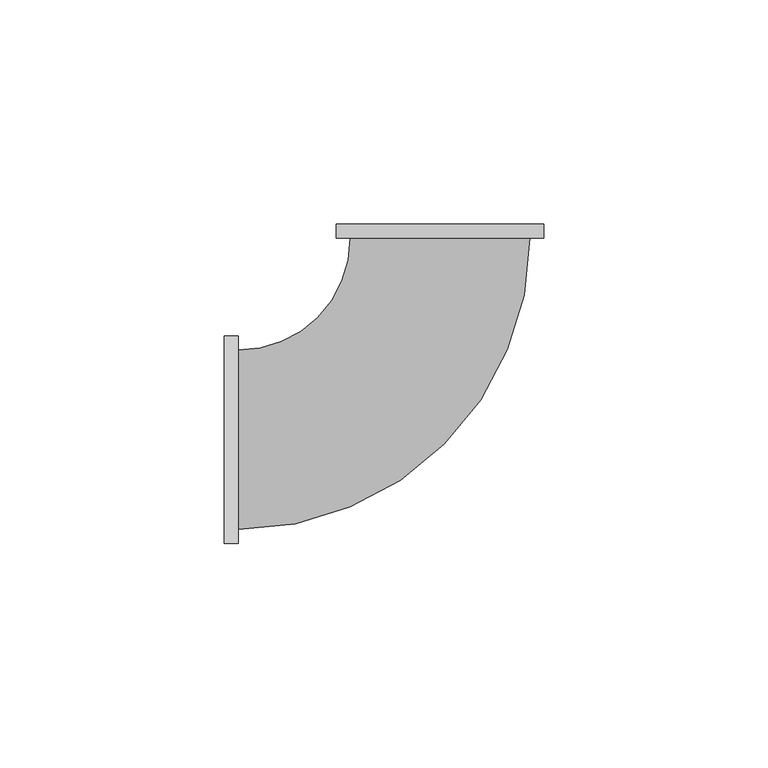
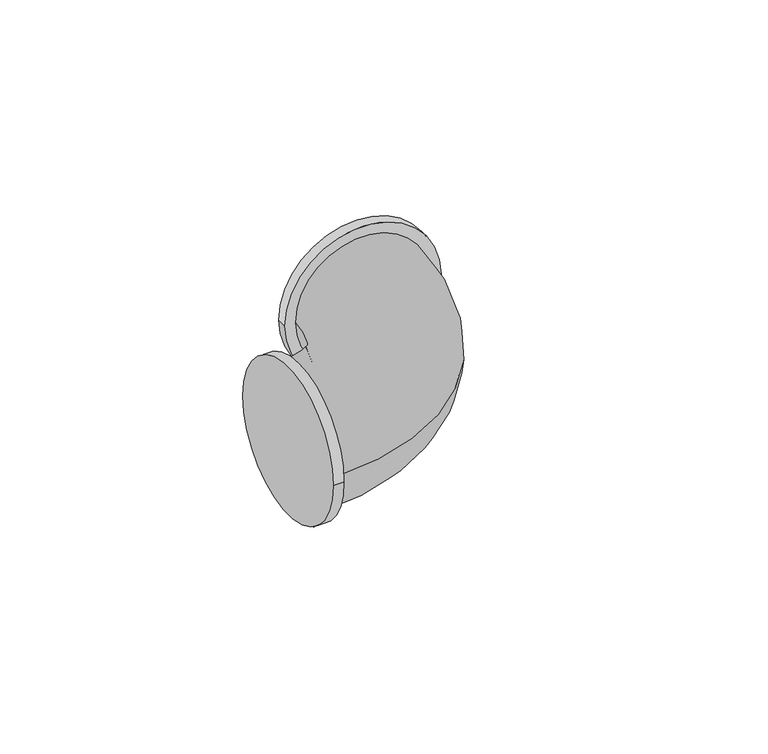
"""IFC4 building model written with IfcOpenShell, lengths in millimetres: pipe fitting geometry, ADSK_ДетальЧугуннаяРезьбовая_Угольник_ГОСТ8946-75 : Неоцинкованные."""

from ifc_helpers import new_model, si_unit, point, frame, origin, place, context, project, spatial, circle_curve, ellipse_curve, trimmed, source, transform, mapped, element, save
from ifc_brep_helpers import plane_surface, cylinder_surface, revolved_surface, advanced_brep


def pipe_fitting_7f21b533(model_context):
    return source(origin(), model_context, "Body", "AdvancedBrep", [
        advanced_brep(
        [(23.2, 48.2, 0.0), (-23.2, 48.2, 0.0), (-45.0, -20.0, 0.0), (20.0, 45.0, 0.0), (-20.0, 45.0, 0.0), (-45.0, 20.0, 0.0), (-48.2, 23.2, 0.0), (-48.2, -23.2, 0.0), (-45.0, 23.2, 0.0), (-45.0, -23.2, 0.0), (23.2, 45.0, 0.0), (-23.2, 45.0, 0.0)],
        [
            (0, 1, circle_curve(frame((0.0, 48.2, 0.0), z_axis=(0.0, 1.0, 0.0), x_axis=(-1.0, 0.0, 0.0)), 23.2)),
            (1, 0, circle_curve(frame((0.0, 48.2, 0.0), z_axis=(0.0, 1.0, 0.0), x_axis=(-1.0, 0.0, 0.0)), 23.2)),
            (2, 3, circle_curve(frame((-45.0, 45.0, 0.0), z_axis=(0.0, 0.0, 1.0), x_axis=(1.0, 0.0, 0.0)), 65.0)),
            (3, 4, circle_curve(frame((0.0, 45.0, 0.0), z_axis=(0.0, -1.0, 0.0), x_axis=(1.0, 0.0, 0.0)), 20.0)),
            (4, 5, circle_curve(frame((-45.0, 45.0, 0.0), z_axis=(0.0, 0.0, -1.0), x_axis=(1.0, 0.0, 0.0)), 25.0)),
            (5, 2, circle_curve(frame((-45.0, 0.0, 0.0), z_axis=(1.0, 0.0, 0.0), x_axis=(0.0, -1.0, 0.0)), 20.0)),
            (2, 5, circle_curve(frame((-45.0, 0.0, 0.0), z_axis=(1.0, 0.0, 0.0), x_axis=(0.0, -1.0, 0.0)), 20.0)),
            (4, 3, circle_curve(frame((0.0, 45.0, 0.0), z_axis=(0.0, -1.0, 0.0), x_axis=(1.0, 0.0, 0.0)), 20.0)),
            (6, 7, circle_curve(frame((-48.2, 0.0, 0.0), z_axis=(-1.0, 0.0, 0.0), x_axis=(0.0, -1.0, 0.0)), 23.2)),
            (7, 6, circle_curve(frame((-48.2, 0.0, 0.0), z_axis=(-1.0, 0.0, 0.0), x_axis=(0.0, -1.0, 0.0)), 23.2)),
            (8, 9, circle_curve(frame((-45.0, 0.0, 0.0), z_axis=(1.0, 0.0, 0.0), x_axis=(0.0, -1.0, 0.0)), 23.2)),
            (9, 8, circle_curve(frame((-45.0, 0.0, 0.0), z_axis=(1.0, 0.0, 0.0), x_axis=(0.0, -1.0, 0.0)), 23.2)),
            (8, 6),
            (7, 9),
            (10, 11, circle_curve(frame((0.0, 45.0, 0.0), z_axis=(0.0, -1.0, 0.0), x_axis=(-1.0, 0.0, 0.0)), 23.2)),
            (11, 10, circle_curve(frame((0.0, 45.0, 0.0), z_axis=(0.0, -1.0, 0.0), x_axis=(-1.0, 0.0, 0.0)), 23.2)),
            (10, 0),
            (1, 11),
        ],
        [
            plane_surface(frame((0.0, 48.2, 0.0), z_axis=(0.0, 1.0, 0.0), x_axis=(0.0, 0.0, 1.0))),
            revolved_surface(trimmed(ellipse_curve(frame((0.0, 45.0, 0.0), z_axis=(0.0, 1.0, 0.0), x_axis=(1.0, 0.0, 0.0)), 20.0, 20.0), [point((-20.0, 45.0, 0.0))], [point((20.0, 45.0, 0.0))], True, "CARTESIAN"), (-45.0, 45.0, 0.0), (0.0, 0.0, -1.0)),
            revolved_surface(trimmed(ellipse_curve(frame((0.0, 45.0, 0.0), z_axis=(0.0, 1.0, 0.0), x_axis=(1.0, 0.0, 0.0)), 20.0, 20.0), [point((20.0, 45.0, 0.0))], [point((-20.0, 45.0, 0.0))], True, "CARTESIAN"), (-45.0, 45.0, 0.0), (0.0, 0.0, -1.0)),
            plane_surface(frame((-48.2, 0.0, 0.0), z_axis=(-1.0, 0.0, 0.0), x_axis=(0.0, 0.0, 1.0))),
            plane_surface(frame((-45.0, 0.0, 0.0), z_axis=(1.0, 0.0, 0.0), x_axis=(0.0, 0.0, 1.0))),
            cylinder_surface(frame((-45.0, 0.0, 0.0), z_axis=(1.0, 0.0, 0.0), x_axis=(0.0, -1.0, 0.0)), 23.2),
            plane_surface(frame((0.0, 45.0, 0.0), z_axis=(0.0, -1.0, 0.0), x_axis=(0.0, 0.0, 1.0))),
            cylinder_surface(frame((0.0, 45.0, 0.0), z_axis=(0.0, -1.0, 0.0), x_axis=(-1.0, 0.0, 0.0)), 23.2),
        ],
        [
            (0, [[1, 2]]),
            (1, [[3, 4, 5, 6]]),
            (2, [[-3, 7, -5, 8]]),
            (3, [[9, 10]]),
            (4, [[11, 12], [-6, -7]]),
            (5, [[-11, 13, -10, 14]]),
            (5, [[-12, -14, -9, -13]]),
            (6, [[15, 16], [-4, -8]]),
            (7, [[-15, 17, -2, 18]]),
            (7, [[-16, -18, -1, -17]]),
        ],
    ),
    ])


if __name__ == "__main__":
    model = new_model("IFC4")
    model_context = context("Model", 3, world=origin())
    ifc_project = project(units=[si_unit("LENGTHUNIT", "METRE", prefix="MILLI")], contexts=[model_context])
    site = spatial("IfcSite", under=ifc_project)
    building = spatial("IfcBuilding", under=site)
    placement = place(None, origin())
    pipe_fitting_shape = pipe_fitting_7f21b533(model_context)
    element("IfcPipeFitting", 1, ObjectType="ADSK_ДетальЧугуннаяРезьбовая_Угольник_ГОСТ8946-75 : Неоцинкованные", at=placement, inside=building, context=model_context, shape_type="MappedRepresentation", body=[
        mapped(pipe_fitting_shape, transform((0.0, 0.0, 0.0), x_axis=(1.0, 0.0, 0.0), y_axis=(0.0, 1.0, 0.0), z_axis=(0.0, 0.0, 1.0))),
    ])
    save(model, "model.ifc")
